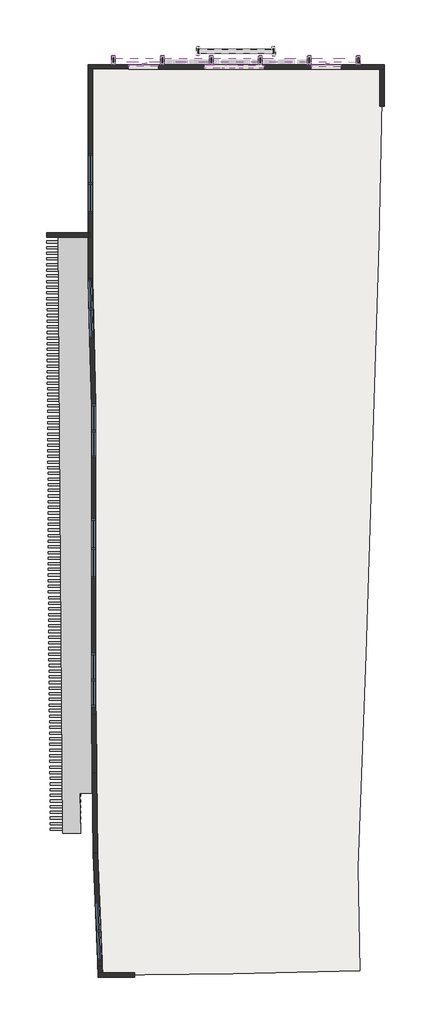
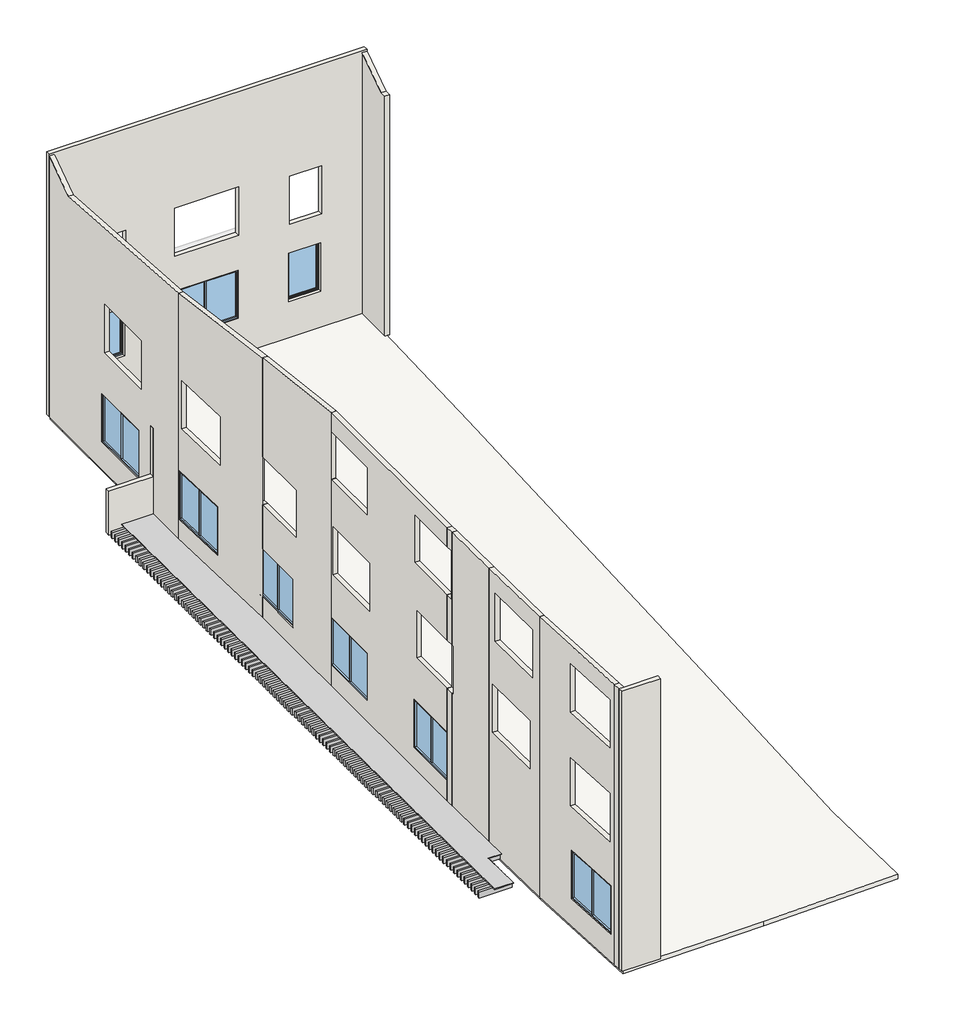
# One storey, part 1 of 2: 14 walls, 9 windows, 6 proxies, 1 slab.
"""IFC4 building model written with IfcOpenShell, lengths in millimetres."""

from ifc_helpers import new_model, si_unit, frame, origin, place, context, project, spatial, polyline, outline, extrude, faceted_brep, transform, mapped, element, save
from components import generic_models_749ffef7, generic_models_a234b745, brise_soleil_brise_soleil_92fbaf2c, brise_soleil_brise_soleil_2_45c54e24, window_d016f1b2, j12_2_00_x_1_60_1745ae86, j8_1_80_x_1_60_cf8edf4a

model = new_model("IFC4")

# Units and contexts
model_context = context("Model", 3, world=origin())
ifc_project = project(units=[si_unit("LENGTHUNIT", "METRE", prefix="MILLI")], contexts=[model_context])

# Site, building, storey
site = spatial("IfcSite", under=ifc_project)
building = spatial("IfcBuilding", under=site)
storey = spatial("IfcBuildingStorey", under=building, Name="1º ANDAR", Elevation=3050.0)

# Proxies
placement = place(None, origin())
generic_models_shape = generic_models_749ffef7(model_context)
element("IfcBuildingElementProxy", 1, Name="PERGOLADO : PERGOLADO", ObjectType="PERGOLADO : PERGOLADO", at=placement, inside=storey, context=model_context, shape_type="MappedRepresentation", body=[
    mapped(generic_models_shape, transform((0.0, 0.0, 0.0), x_axis=(1.0, 0.0, 0.0), y_axis=(0.0, 1.0, 0.0), z_axis=(0.0, 0.0, 1.0))),
])
generic_models_2_shape = generic_models_a234b745(model_context)
element("IfcBuildingElementProxy", 2, Name="COBERTA-POLICARBONATO : COBERTA-POLICARBONATO", ObjectType="COBERTA-POLICARBONATO : COBERTA-POLICARBONATO", at=placement, inside=storey, context=model_context, shape_type="MappedRepresentation", body=[
    mapped(generic_models_2_shape, transform((0.0, 0.0, 0.0), x_axis=(1.0, 0.0, 0.0), y_axis=(0.0, 1.0, 0.0), z_axis=(0.0, 0.0, 1.0))),
])
brise_soleil_brise_soleil_shape = brise_soleil_brise_soleil_92fbaf2c(model_context)
element("IfcBuildingElementProxy", 3, Name="Brise soleil : Brise soleil", ObjectType="Brise soleil : Brise soleil", at=placement, inside=storey, context=model_context, shape_type="MappedRepresentation", body=[
    mapped(brise_soleil_brise_soleil_shape, transform((-2343.0395397, 17030.4680386, 4200.0), x_axis=(0.9999993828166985, -0.0011110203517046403, 0.0), y_axis=(0.0, 0.0, -1.0), z_axis=(0.0011110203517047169, 0.9999993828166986, 0.0))),
])
element("IfcBuildingElementProxy", 4, Name="Brise soleil : Brise soleil", ObjectType="Brise soleil : Brise soleil", at=placement, inside=storey, context=model_context, shape_type="MappedRepresentation", body=[
    mapped(brise_soleil_brise_soleil_shape, transform((-2343.0395397, 17030.4680386, 5150.0), x_axis=(0.9999993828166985, -0.0011110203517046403, 0.0), y_axis=(0.0, 0.0, -1.0), z_axis=(0.0011110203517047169, 0.9999993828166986, 0.0))),
])
brise_soleil_brise_soleil_2_shape = brise_soleil_brise_soleil_2_45c54e24(model_context)
element("IfcBuildingElementProxy", 5, Name="Brise soleil : Brise soleil 2", ObjectType="Brise soleil : Brise soleil 2", at=placement, inside=storey, context=model_context, shape_type="MappedRepresentation", body=[
    mapped(brise_soleil_brise_soleil_2_shape, transform((506.9569424, 17334.8021309, 3710.0), x_axis=(0.9999993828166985, -0.0011110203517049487, 0.0), y_axis=(0.0, 0.0, -1.0), z_axis=(0.0011110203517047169, 0.9999993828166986, 0.0))),
])
element("IfcBuildingElementProxy", 6, Name="Brise soleil : Brise soleil 2", ObjectType="Brise soleil : Brise soleil 2", at=placement, inside=storey, context=model_context, shape_type="MappedRepresentation", body=[
    mapped(brise_soleil_brise_soleil_2_shape, transform((506.9569424, 17334.8021309, 4735.0), x_axis=(0.9999993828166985, -0.0011110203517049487, 0.0), y_axis=(0.0, 0.0, -1.0), z_axis=(0.0011110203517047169, 0.9999993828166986, 0.0))),
])

# Slab
element("IfcSlab", 7, ObjectType="Piso de Cerâmica (0.15m)", at=placement, inside=storey, context=model_context, shape_type="SweptSolid", body=[
    extrude(outline(polyline([(6694.2338956, 16652.9278898), (6583.5512983, 11850.960276), (6151.2727265, -1958.9837619), (5887.4282267, -9129.2308039), (5946.0849466, -12586.0010967), (1687.2597426, -12686.0404964), (-2764.3501419, -12742.7587217), (-2948.0848555, -8546.7795088), (-3000.2826987, -4547.1201001), (-3000.2826987, -47.1201001), (-2976.3575536, 2149.8921234), (-2976.3575536, 4449.8921234), (-3026.6143697, 7492.1537717), (-3102.7236199, 10391.1548724), (-3109.8194631, 12088.8880364), (-3109.8194631, 14188.8880364), (-3109.8194631, 17088.8880364), (-3109.8194631, 17763.8203993), (6694.2338956, 17763.8203993), (6694.2338956, 16652.9278898)])), frame((0.0, 0.0, 2900.0), z_axis=(0.0, 0.0, 1.0), x_axis=(1.0, 0.0, 0.0)), (0.0, 0.0, 1.0), 150.0),
])

# Walls
element("IfcWall", 8, ObjectType="Parede 0.15m", at=placement, inside=storey, context=model_context, shape_type="Brep", body=[
    faceted_brep([(-3184.8194631, 17688.9036796, 3050.0), (-3034.8194631, 17688.7370264, 3050.0), (6769.2338956, 17677.8445169, 3050.0), (6769.2338956, 17677.8445169, 11750.0), (-3184.8194631, 17688.9036796, 11750.0), (-3184.8194631, 17688.9036796, 11699.2729466), (731.9475307, 17684.5520691, 4250.0), (731.9475307, 17684.5520691, 5850.0), (2731.9462964, 17682.3300284, 5850.0), (2731.9462964, 17682.3300284, 4250.0), (746.738843, 17684.5356356, 7000.0), (746.738843, 17684.5356356, 8600.0), (2746.7376087, 17682.3135949, 8600.0), (2746.7376087, 17682.3135949, 7000.0), (5343.3700068, 17679.4286817, 8400.0), (5343.3700068, 17679.4286817, 6800.0), (4343.370624, 17680.539702, 6800.0), (4343.370624, 17680.539702, 8400.0), (-795.6078523, 17686.2492152, 8400.0), (-795.6078523, 17686.2492152, 6800.0), (-1795.6072351, 17687.3602356, 6800.0), (-1795.6072351, 17687.3602356, 8400.0), (5316.8622339, 17679.4581324, 5850.0), (5316.8622339, 17679.4581324, 4250.0), (4316.8628511, 17680.5691527, 4250.0), (4316.8628511, 17680.5691527, 5850.0), (-823.3260144, 17686.2800107, 5850.0), (-823.3260144, 17686.2800107, 4250.0), (-1823.3253972, 17687.391031, 4250.0), (-1823.3253972, 17687.391031, 5850.0), (-3184.8194631, 17838.9037722, 11750.0), (6769.2338956, 17827.8446095, 11750.0), (6769.2338956, 17827.8446095, 3050.0), (-3184.8194631, 17838.9037722, 3050.0), (732.1141838, 17834.5519765, 5850.0), (732.1141838, 17834.5519765, 4250.0), (2732.1129494, 17832.3299358, 4250.0), (2732.1129494, 17832.3299358, 5850.0), (746.9054961, 17834.535543, 8600.0), (746.9054961, 17834.535543, 7000.0), (2746.9042617, 17832.3135023, 7000.0), (2746.9042617, 17832.3135023, 8600.0), (5343.5366599, 17829.4285891, 6800.0), (5343.5366599, 17829.4285891, 8400.0), (4343.5372771, 17830.5396095, 8400.0), (4343.5372771, 17830.5396095, 6800.0), (-795.4411992, 17836.2491227, 6800.0), (-795.4411992, 17836.2491227, 8400.0), (-1795.440582, 17837.360143, 8400.0), (-1795.440582, 17837.360143, 6800.0), (5317.028887, 17829.4580398, 4250.0), (5317.028887, 17829.4580398, 5850.0), (4317.0295042, 17830.5690602, 5850.0), (4317.0295042, 17830.5690602, 4250.0), (-823.1593613, 17836.2799181, 4250.0), (-823.1593613, 17836.2799181, 5850.0), (-1823.1587441, 17837.3909385, 5850.0), (-1823.1587441, 17837.3909385, 4250.0), (-3184.8194631, 17813.9037567, 3050.0), (6769.2338956, 17802.8445941, 3050.0)], [[[0, 1, 2, 3, 4, 5], [6, 7, 8, 9], [10, 11, 12, 13], [14, 15, 16, 17], [18, 19, 20, 21], [22, 23, 24, 25], [26, 27, 28, 29]], [[30, 31, 32, 33], [34, 35, 36, 37], [38, 39, 40, 41], [42, 43, 44, 45], [46, 47, 48, 49], [50, 51, 52, 53], [54, 55, 56, 57]], [[4, 3, 31, 30]], [[2, 1, 0, 58, 59]], [[3, 2, 59, 32, 31]], [[35, 34, 7, 6]], [[36, 35, 6, 9]], [[37, 36, 9, 8]], [[34, 37, 8, 7]], [[0, 5, 4, 30, 33, 58]], [[33, 32, 59, 58]], [[39, 38, 11, 10]], [[40, 39, 10, 13]], [[41, 40, 13, 12]], [[38, 41, 12, 11]], [[42, 15, 14, 43]], [[43, 14, 17, 44]], [[44, 17, 16, 45]], [[15, 42, 45, 16]], [[46, 19, 18, 47]], [[47, 18, 21, 48]], [[48, 21, 20, 49]], [[19, 46, 49, 20]], [[50, 23, 22, 51]], [[51, 22, 25, 52]], [[52, 25, 24, 53]], [[23, 50, 53, 24]], [[54, 27, 26, 55]], [[55, 26, 29, 56]], [[56, 29, 28, 57]], [[27, 54, 57, 28]]]),
])
element("IfcWall", 9, ObjectType="Parede 0.15m", at=placement, inside=storey, context=model_context, shape_type="Brep", body=[
    faceted_brep([(6619.2338956, 17678.0111701, 3050.0), (6619.2338956, 16443.4829321, 3050.0), (6619.2338956, 16443.4829321, 10998.6968206), (6619.2338956, 16643.3588146, 10998.6968206), (6619.2338956, 17678.0111701, 11699.2729466), (6769.2338956, 17677.8445169, 3050.0), (6769.2338956, 17677.8445169, 11699.1601037), (6769.2338956, 16643.3588146, 10998.6968206), (6769.2338956, 16441.6752931, 10998.6968206), (6769.2338956, 16441.6752931, 3050.0), (6744.2338956, 17677.8722924, 3050.0), (6744.2338956, 16441.9765663, 3050.0)], [[[0, 1, 2, 3, 4]], [[5, 6, 7, 8, 9]], [[0, 4, 6, 5, 10]], [[1, 0, 10, 11]], [[10, 5, 9, 11]], [[3, 2, 8, 7]], [[4, 3, 7, 6]], [[2, 1, 11, 9, 8]]]),
])
element("IfcWall", 10, ObjectType="Parede 0.15m", at=placement, inside=storey, context=model_context, shape_type="Brep", body=[
    faceted_brep([(-2702.9361704, -12430.8511291, 3050.0), (-2868.9517216, -8639.527278, 3050.0), (-2868.9517216, -8639.527278, 12330.0), (-2702.9361704, -12430.8511291, 12330.0), (-2798.303236, -10252.9381091, 5550.0), (-2798.303236, -10252.9381091, 3950.0), (-2710.8105153, -12251.0234485, 3950.0), (-2710.8105153, -12251.0234485, 5550.0), (-2712.5052866, -12212.3196827, 8600.0), (-2799.9980074, -10214.2343433, 8600.0), (-2799.9980074, -10214.2343433, 7000.0), (-2712.5052866, -12212.3196827, 7000.0), (-2712.9596127, -12201.9441646, 11700.0), (-2800.4523335, -10203.8588251, 11700.0), (-2800.4523335, -10203.8588251, 10100.0), (-2712.9596127, -12201.9441646, 10100.0), (-2852.7925708, -12437.4130832, 3050.0), (-2852.7925708, -12437.4130832, 12330.0), (-3018.9215606, -8643.4986179, 12330.0), (-3018.9215606, -8643.4986179, 3050.0), (-2948.1596365, -10259.5000631, 5550.0), (-2860.6669157, -12257.5854026, 5550.0), (-2860.6669157, -12257.5854026, 3950.0), (-2948.1596365, -10259.5000631, 3950.0), (-2862.3616871, -12218.8816368, 8600.0), (-2862.3616871, -12218.8816368, 7000.0), (-2949.8544078, -10220.7962973, 7000.0), (-2949.8544078, -10220.7962973, 8600.0), (-2862.8160132, -12208.5061186, 11700.0), (-2862.8160132, -12208.5061186, 10100.0), (-2950.3087339, -10210.4207791, 10100.0), (-2950.3087339, -10210.4207791, 11700.0), (-2827.8165041, -12436.3194241, 3050.0), (-2993.9265875, -8642.836728, 3050.0)], [[[0, 1, 2, 3], [4, 5, 6, 7], [8, 9, 10, 11], [12, 13, 14, 15]], [[16, 17, 18, 19], [20, 21, 22, 23], [24, 25, 26, 27], [28, 29, 30, 31]], [[3, 2, 18, 17]], [[0, 3, 17, 16, 32]], [[1, 0, 32, 33]], [[32, 16, 19, 33]], [[2, 1, 33, 19, 18]], [[5, 4, 20, 23]], [[6, 5, 23, 22]], [[7, 6, 22, 21]], [[4, 7, 21, 20]], [[25, 24, 8, 11]], [[26, 25, 11, 10]], [[27, 26, 10, 9]], [[24, 27, 9, 8]], [[29, 28, 12, 15]], [[30, 29, 15, 14]], [[31, 30, 14, 13]], [[28, 31, 13, 12]]]),
])
element("IfcWall", 11, ObjectType="Parede 0.15m", at=placement, inside=storey, context=model_context, shape_type="Brep", body=[
    faceted_brep([(-2868.9517216, -8639.527278, 3050.0), (-2893.5990228, -5957.3843401, 3050.0), (-2893.5990228, -5957.3843401, 12330.0), (-2868.9517216, -8639.527278, 12330.0), (-2891.8148029, -6151.5448669, 8600.0), (-2891.8148029, -6151.5448669, 7000.0), (-2873.4367662, -8151.4604271, 7000.0), (-2873.4367662, -8151.4604271, 8600.0), (-2890.5765699, -6286.2905678, 11700.0), (-2890.5765699, -6286.2905678, 10100.0), (-2872.1985332, -8286.206128, 10100.0), (-2872.1985332, -8286.206128, 11700.0), (-3018.9215606, -8643.4986179, 3050.0), (-3018.9215606, -8643.4986179, 12330.0), (-3043.5900118, -5959.0541233, 12330.0), (-3043.5900118, -5959.0541233, 3050.0), (-3041.8084699, -6152.9232196, 8600.0), (-3023.4304332, -8152.8387798, 8600.0), (-3023.4304332, -8152.8387798, 7000.0), (-3041.8084699, -6152.9232196, 7000.0), (-3040.5702369, -6287.6689206, 11700.0), (-3022.1922002, -8287.5844807, 11700.0), (-3022.1922002, -8287.5844807, 10100.0), (-3040.5702369, -6287.6689206, 10100.0), (-2993.9265875, -8642.836728, 3050.0), (-3018.5915136, -5958.7758261, 3050.0)], [[[0, 1, 2, 3], [4, 5, 6, 7], [8, 9, 10, 11]], [[12, 13, 14, 15], [16, 17, 18, 19], [20, 21, 22, 23]], [[3, 2, 14, 13]], [[1, 0, 24, 25]], [[0, 3, 13, 12, 24]], [[24, 12, 15, 25]], [[2, 1, 25, 15, 14]], [[5, 4, 16, 19]], [[6, 5, 19, 18]], [[7, 6, 18, 17]], [[4, 7, 17, 16]], [[9, 8, 20, 23]], [[10, 9, 23, 22]], [[11, 10, 22, 21]], [[8, 11, 21, 20]]]),
])
element("IfcWall", 12, ObjectType="Parede 0.15m", at=placement, inside=storey, context=model_context, shape_type="Brep", body=[
    faceted_brep([(-2893.5990228, -5957.38434, 3050.0), (-2919.3165527, -3990.5794955, 3050.0), (-2919.3165527, -3990.5794955, 12330.0), (-2893.5990228, -5957.38434, 12330.0), (-3043.5900118, -5959.0541232, 12330.0), (-3069.3129802, -3991.8333498, 12330.0), (-3069.3129802, -3991.8333498, 8600.0), (-3068.4007563, -4061.5976906, 8600.0), (-3068.4007563, -4061.5976906, 7000.0), (-3069.3129802, -3991.8333498, 7000.0), (-3069.3129802, -3991.8333498, 3050.0), (-3043.5900118, -5959.0541232, 3050.0), (-3018.5915136, -5958.775826, 3050.0), (-3044.3135756, -3991.6243741, 3050.0), (-2920.2679046, -3990.5874481, 7000.0), (-2920.2679046, -3990.5874481, 8600.0), (-2920.2679046, -4061.5976906, 7000.0), (-2920.2679046, -4061.5976906, 8600.0)], [[[0, 1, 2, 3]], [[4, 5, 6, 7, 8, 9, 10, 11]], [[3, 2, 5, 4]], [[1, 0, 12, 13]], [[2, 1, 13, 10, 9, 14, 15, 6, 5]], [[16, 17, 15, 14]], [[16, 14, 9, 8]], [[17, 16, 8, 7]], [[15, 17, 7, 6]], [[0, 3, 4, 11, 12]], [[11, 10, 13, 12]]]),
])
element("IfcWall", 13, ObjectType="Parede 0.15m", at=placement, inside=storey, context=model_context, shape_type="Brep", body=[
    faceted_brep([(-2919.3165527, -3990.5794955, 3050.0), (-2920.2679046, -3729.4368733, 3050.0), (-2920.2679046, -3729.4368733, 7000.0), (-2920.2679046, -3729.4368733, 8600.0), (-2920.2679046, -3729.4368733, 10100.0), (-2920.2679046, -3729.4368733, 11700.0), (-2920.2679046, -3729.4368733, 12330.0), (-2919.3165527, -3990.5794955, 12330.0), (-3069.3129802, -3991.8333498, 12330.0), (-3070.2679046, -3729.7101001, 12330.0), (-3070.2679046, -3729.7101001, 11700.0), (-3069.4443784, -3955.7650202, 11700.0), (-3069.4443784, -3955.7650202, 10100.0), (-3070.2679046, -3729.7101001, 10100.0), (-3070.2679046, -3729.7101001, 8600.0), (-3069.3129802, -3991.8333498, 8600.0), (-3070.2679046, -3729.7101001, 3050.0), (-3069.3129802, -3991.8333498, 3050.0), (-3069.3129802, -3991.8333498, 7000.0), (-3070.2679046, -3729.7101001, 7000.0), (-3044.3135756, -3991.6243741, 3050.0), (-3045.2679046, -3729.6645623, 3050.0), (-2920.2679046, -3990.5874481, 8600.0), (-2920.2679046, -3990.5874481, 7000.0), (-2920.2679046, -3955.7650202, 10100.0), (-2920.2679046, -3955.7650202, 11700.0)], [[[0, 1, 2, 3, 4, 5, 6, 7]], [[8, 9, 10, 11, 12, 13, 14, 15]], [[16, 17, 18, 19]], [[7, 6, 9, 8]], [[1, 0, 20, 21]], [[0, 7, 8, 15, 22, 23, 18, 17, 20]], [[17, 16, 21, 20]], [[1, 21, 16, 19, 2]], [[9, 6, 5, 10]], [[3, 14, 13, 4]], [[2, 23, 22, 3]], [[23, 2, 19, 18]], [[3, 22, 15, 14]], [[24, 25, 5, 4]], [[24, 4, 13, 12]], [[25, 24, 12, 11]], [[5, 25, 11, 10]]]),
])
element("IfcWall", 14, ObjectType="Parede 0.15m", at=placement, inside=storey, context=model_context, shape_type="Brep", body=[
    faceted_brep([(-2920.2679046, -3729.4368733, 3050.0), (-2920.2679046, 2560.4265133, 3050.0), (-2920.2679046, 2560.4265133, 3950.0), (-2920.2679046, 590.7235546, 3950.0), (-2920.2679046, 590.7235546, 5550.0), (-2920.2679046, 2560.4265133, 5550.0), (-2920.2679046, 2560.4265133, 10100.0), (-2920.2679046, 584.2349798, 10100.0), (-2920.2679046, 584.2349798, 11700.0), (-2920.2679046, 2560.4265133, 11700.0), (-2920.2679046, 2560.4265133, 12330.0), (-2920.2679046, -3729.4368733, 12330.0), (-2920.2679046, -3729.4368733, 11700.0), (-2920.2679046, -1955.7650202, 11700.0), (-2920.2679046, -1955.7650202, 10100.0), (-2920.2679046, -3729.4368733, 10100.0), (-2920.2679046, -3729.4368733, 8600.0), (-2920.2679046, -2061.5976906, 8600.0), (-2920.2679046, -2061.5976906, 7000.0), (-2920.2679046, -3729.4368733, 7000.0), (-2920.2679046, -3723.9792295, 5550.0), (-2920.2679046, -1923.9792295, 5550.0), (-2920.2679046, -1923.9792295, 3950.0), (-2920.2679046, -3723.9792295, 3950.0), (-2920.2679046, 480.4265133, 8600.0), (-2920.2679046, 2480.4265133, 8600.0), (-2920.2679046, 2480.4265133, 7000.0), (-2920.2679046, 480.4265133, 7000.0), (-3070.2679046, -3729.7101001, 12330.0), (-3070.2679046, 2560.4265133, 12330.0), (-3070.2679046, 2560.4265133, 11700.0), (-3070.2679046, 584.2349798, 11700.0), (-3070.2679046, 584.2349798, 10100.0), (-3070.2679046, 2560.4265133, 10100.0), (-3070.2679046, 2560.4265133, 5550.0), (-3070.2679046, 590.7235546, 5550.0), (-3070.2679046, 590.7235546, 3950.0), (-3070.2679046, 2560.4265133, 3950.0), (-3070.2679046, 2560.4265133, 3050.0), (-3070.2679046, -3729.7101001, 3050.0), (-3070.2679046, -3729.7101001, 7000.0), (-3070.2679046, -2061.5976906, 7000.0), (-3070.2679046, -2061.5976906, 8600.0), (-3070.2679046, -3729.7101001, 8600.0), (-3070.2679046, -3729.7101001, 10100.0), (-3070.2679046, -1955.7650202, 10100.0), (-3070.2679046, -1955.7650202, 11700.0), (-3070.2679046, -3729.7101001, 11700.0), (-3070.2679046, -3723.9792295, 5550.0), (-3070.2679046, -3723.9792295, 3950.0), (-3070.2679046, -1923.9792295, 3950.0), (-3070.2679046, -1923.9792295, 5550.0), (-3070.2679046, 480.4265133, 8600.0), (-3070.2679046, 480.4265133, 7000.0), (-3070.2679046, 2480.4265133, 7000.0), (-3070.2679046, 2480.4265133, 8600.0), (-3045.2679046, 2560.4265133, 3050.0), (-3045.2679046, -3729.6645623, 3050.0)], [[[0, 1, 2, 3, 4, 5, 6, 7, 8, 9, 10, 11, 12, 13, 14, 15, 16, 17, 18, 19], [20, 21, 22, 23], [24, 25, 26, 27]], [[28, 29, 30, 31, 32, 33, 34, 35, 36, 37, 38, 39, 40, 41, 42, 43, 44, 45, 46, 47], [48, 49, 50, 51], [52, 53, 54, 55]], [[29, 10, 9, 30]], [[1, 56, 38, 37, 2]], [[33, 6, 5, 34]], [[11, 10, 29, 28]], [[1, 0, 57, 56]], [[11, 28, 47, 12]], [[57, 0, 19, 40, 39]], [[43, 16, 15, 44]], [[39, 38, 56, 57]], [[49, 48, 20, 23]], [[50, 49, 23, 22]], [[51, 50, 22, 21]], [[48, 51, 21, 20]], [[17, 42, 41, 18]], [[18, 41, 40, 19]], [[42, 17, 16, 43]], [[31, 8, 7, 32]], [[32, 7, 6, 33]], [[8, 31, 30, 9]], [[13, 46, 45, 14]], [[14, 45, 44, 15]], [[46, 13, 12, 47]], [[53, 52, 24, 27]], [[54, 53, 27, 26]], [[55, 54, 26, 25]], [[52, 55, 25, 24]], [[35, 4, 3, 36]], [[36, 3, 2, 37]], [[4, 35, 34, 5]]]),
])
element("IfcWall", 15, ObjectType="Parede 0.15m", at=placement, inside=storey, context=model_context, shape_type="Brep", body=[
    faceted_brep([(-2920.2679046, 2560.4265133, 3050.0), (-2920.2679046, 6299.1513572, 3050.0), (-2920.2679046, 6299.1513572, 3950.0), (-2920.2679046, 4628.0737296, 3950.0), (-2920.2679046, 4628.0737296, 5550.0), (-2920.2679046, 6299.1513572, 5550.0), (-2920.2679046, 6299.1513572, 7000.0), (-2920.2679046, 4464.7037251, 7000.0), (-2920.2679046, 4464.7037251, 8600.0), (-2920.2679046, 6299.1513572, 8600.0), (-2920.2679046, 6299.1513572, 11870.9423117), (-2920.2679046, 2560.4265133, 12330.0), (-2920.2679046, 2560.4265133, 11700.0), (-2920.2679046, 2584.2349798, 11700.0), (-2920.2679046, 2584.2349798, 10100.0), (-2920.2679046, 2560.4265133, 10100.0), (-2920.2679046, 2560.4265133, 5550.0), (-2920.2679046, 2590.7235546, 5550.0), (-2920.2679046, 2590.7235546, 3950.0), (-2920.2679046, 2560.4265133, 3950.0), (-3070.2679046, 6297.1826755, 3050.0), (-3070.2679046, 2560.4265133, 3050.0), (-3070.2679046, 2560.4265133, 3950.0), (-3070.2679046, 2590.7235546, 3950.0), (-3070.2679046, 2590.7235546, 5550.0), (-3070.2679046, 2560.4265133, 5550.0), (-3070.2679046, 2560.4265133, 10100.0), (-3070.2679046, 2584.2349798, 10100.0), (-3070.2679046, 2584.2349798, 11700.0), (-3070.2679046, 2560.4265133, 11700.0), (-3070.2679046, 2560.4265133, 12330.0), (-3070.2679046, 6297.1826755, 11871.1840354), (-3070.2679046, 6297.1826755, 8600.0), (-3070.2679046, 4464.7037251, 8600.0), (-3070.2679046, 4464.7037251, 7000.0), (-3070.2679046, 6297.1826755, 7000.0), (-3070.2679046, 6297.1826755, 5550.0), (-3070.2679046, 4628.0737296, 5550.0), (-3070.2679046, 4628.0737296, 3950.0), (-3070.2679046, 6297.1826755, 3950.0), (-3045.2679046, 6297.5107891, 3050.0), (-3045.2679046, 2560.4265133, 3050.0)], [[[0, 1, 2, 3, 4, 5, 6, 7, 8, 9, 10, 11, 12, 13, 14, 15, 16, 17, 18, 19]], [[20, 21, 22, 23, 24, 25, 26, 27, 28, 29, 30, 31, 32, 33, 34, 35, 36, 37, 38, 39]], [[5, 36, 35, 6]], [[39, 2, 1, 40, 20]], [[10, 9, 32, 31]], [[38, 3, 2, 39]], [[3, 38, 37, 4]], [[4, 37, 36, 5]], [[33, 8, 7, 34]], [[34, 7, 6, 35]], [[8, 33, 32, 9]], [[14, 27, 26, 15]], [[27, 14, 13, 28]], [[28, 13, 12, 29]], [[18, 23, 22, 19]], [[23, 18, 17, 24]], [[24, 17, 16, 25]], [[12, 11, 30, 29]], [[41, 0, 19, 22, 21]], [[15, 26, 25, 16]], [[1, 0, 41, 40]], [[21, 20, 40, 41]], [[11, 10, 31, 30]]]),
])
element("IfcWall", 16, ObjectType="Parede 0.15m", at=placement, inside=storey, context=model_context, shape_type="Brep", body=[
    faceted_brep([(-2920.2679046, 6299.1513572, 3050.0), (-3034.8194631, 10662.4198596, 3050.0), (-3034.8194631, 10662.4198596, 11412.4106151), (-2920.2679046, 6299.1513572, 11871.166632), (-2920.2679046, 6299.1513572, 8600.0), (-2924.6142523, 6464.7037251, 8600.0), (-2924.6142523, 6464.7037251, 7000.0), (-2920.2679046, 6299.1513572, 7000.0), (-2920.2679046, 6299.1513572, 5550.0), (-2923.6525826, 6428.0737296, 5550.0), (-2923.6525826, 6428.0737296, 3950.0), (-2920.2679046, 6299.1513572, 3950.0), (-2981.3732981, 8626.6556025, 5550.0), (-3033.8624362, 10625.9667065, 5550.0), (-3033.8624362, 10625.9667065, 3950.0), (-2981.3732981, 8626.6556025, 3950.0), (-2978.5519087, 8519.1888885, 8600.0), (-3031.0410468, 10518.4999924, 8600.0), (-3031.0410468, 10518.4999924, 7000.0), (-2978.5519087, 8519.1888885, 7000.0), (-3184.8194631, 10660.4511779, 3050.0), (-3070.2679046, 6297.1826755, 3050.0), (-3070.2679046, 6297.1826755, 3950.0), (-3070.2679046, 6297.1826755, 5550.0), (-3070.2679046, 6297.1826755, 7000.0), (-3070.2679046, 6297.1826755, 8600.0), (-3070.2679046, 6297.1826755, 11870.9597152), (-3184.8194631, 10660.4511779, 11412.2036984), (-3131.3216309, 8622.7189172, 5550.0), (-3131.3216309, 8622.7189172, 3950.0), (-3183.810769, 10622.0300211, 3950.0), (-3183.810769, 10622.0300211, 5550.0), (-3128.5002415, 8515.2522031, 8600.0), (-3128.5002415, 8515.2522031, 7000.0), (-3180.9893796, 10514.5633071, 7000.0), (-3180.9893796, 10514.5633071, 8600.0), (-3045.2679046, 6297.5107891, 3050.0), (-3159.8194631, 10660.7792915, 3050.0), (-3070.2679046, 6428.0737296, 3950.0), (-3070.2679046, 6428.0737296, 5550.0), (-3070.2679046, 6464.7037251, 7000.0), (-3070.2679046, 6464.7037251, 8600.0)], [[[0, 1, 2, 3, 4, 5, 6, 7, 8, 9, 10, 11], [12, 13, 14, 15], [16, 17, 18, 19]], [[20, 21, 22, 23, 24, 25, 26, 27], [28, 29, 30, 31], [32, 33, 34, 35]], [[4, 3, 26, 25]], [[7, 24, 23, 8]], [[36, 0, 11, 22, 21]], [[2, 1, 37, 20, 27]], [[29, 28, 12, 15]], [[30, 29, 15, 14]], [[31, 30, 14, 13]], [[28, 31, 13, 12]], [[38, 39, 23, 22]], [[39, 38, 10, 9]], [[38, 22, 11, 10]], [[23, 39, 9, 8]], [[33, 32, 16, 19]], [[34, 33, 19, 18]], [[35, 34, 18, 17]], [[32, 35, 17, 16]], [[40, 41, 25, 24]], [[40, 24, 7, 6]], [[41, 40, 6, 5]], [[25, 41, 5, 4]], [[1, 0, 36, 37]], [[21, 20, 37, 36]], [[3, 2, 27, 26]]]),
])
element("IfcWall", 17, ObjectType="Parede 0.15m", at=placement, inside=storey, context=model_context, shape_type="Brep", body=[
    faceted_brep([(-3034.8194631, 10662.4198596, 3050.0), (-3034.8194631, 17688.7370264, 3050.0), (-3034.8194631, 17688.7370264, 11699.1601037), (-3034.8194631, 16646.8198203, 10993.6648559), (-3034.8194631, 10662.4198596, 11412.1348665), (-3034.8194631, 14691.139593, 8600.0), (-3034.8194631, 14691.139593, 7000.0), (-3034.8194631, 12691.139593, 7000.0), (-3034.8194631, 12691.139593, 8600.0), (-3034.8194631, 14838.9184748, 5550.0), (-3034.8194631, 14838.9184748, 3950.0), (-3034.8194631, 12838.9184748, 3950.0), (-3034.8194631, 12838.9184748, 5550.0), (-3184.8194631, 17688.9036796, 3050.0), (-3184.8194631, 10660.4511779, 3050.0), (-3184.8194631, 10660.4511779, 11412.2725302), (-3184.8194631, 16646.8198203, 10993.6648559), (-3184.8194631, 17688.9036796, 11699.2729466), (-3184.8194631, 14691.139593, 7000.0), (-3184.8194631, 14691.139593, 8600.0), (-3184.8194631, 12691.139593, 8600.0), (-3184.8194631, 12691.139593, 7000.0), (-3184.8194631, 14838.9184748, 3950.0), (-3184.8194631, 14838.9184748, 5550.0), (-3184.8194631, 12838.9184748, 5550.0), (-3184.8194631, 12838.9184748, 3950.0), (-3159.8194631, 10660.7792915, 3050.0), (-3159.8194631, 17688.8759041, 3050.0)], [[[0, 1, 2, 3, 4], [5, 6, 7, 8], [9, 10, 11, 12]], [[13, 14, 15, 16, 17], [18, 19, 20, 21], [22, 23, 24, 25]], [[0, 4, 15, 14, 26]], [[2, 1, 27, 13, 17]], [[1, 0, 26, 27]], [[14, 13, 27, 26]], [[3, 2, 17, 16]], [[4, 3, 16, 15]], [[5, 19, 18, 6]], [[6, 18, 21, 7]], [[7, 21, 20, 8]], [[19, 5, 8, 20]], [[9, 23, 22, 10]], [[10, 22, 25, 11]], [[11, 25, 24, 12]], [[23, 9, 12, 24]]]),
])
element("IfcWall", 18, ObjectType="Parede 0.15m", at=placement, inside=storey, context=model_context, shape_type="Brep", body=[
    faceted_brep([(-1621.6985497, -12667.7587217, 3050.0), (-2692.5623943, -12667.7587217, 3050.0), (-2842.7061315, -12667.7587217, 3050.0), (-2842.7061315, -12667.7587217, 12330.0), (-2692.5623943, -12667.7587217, 12330.0), (-1621.6985497, -12667.7587217, 12330.0), (-1621.6985497, -12817.7587217, 3050.0), (-1621.6985497, -12817.7587217, 12330.0), (-2836.1378894, -12817.7587217, 12330.0), (-2836.1378894, -12817.7587217, 3050.0), (-1621.6985497, -12792.7587217, 3050.0), (-2837.2325964, -12792.7587217, 3050.0)], [[[0, 1, 2, 3, 4, 5]], [[6, 7, 8, 9]], [[5, 4, 3, 8, 7]], [[0, 5, 7, 6, 10]], [[2, 1, 0, 10, 11]], [[10, 6, 9, 11]], [[3, 2, 11, 9, 8]]]),
])
element("IfcWall", 19, ObjectType="Parede 0.15m", at=placement, inside=storey, context=model_context, shape_type="Brep", body=[
    faceted_brep([(-2852.7925708, -12437.4130832, 3050.0), (-2842.7061315, -12667.7587217, 3050.0), (-2842.7061315, -12667.7587217, 12330.0), (-2852.7925708, -12437.4130832, 12330.0), (-2702.9361704, -12430.8511291, 3050.0), (-2702.9361704, -12430.8511291, 12330.0), (-2692.5623943, -12667.7587217, 12330.0), (-2692.5623943, -12667.7587217, 3050.0), (-2727.9122371, -12431.9447881, 3050.0), (-2717.5863505, -12667.7587217, 3050.0)], [[[0, 1, 2, 3]], [[4, 5, 6, 7]], [[3, 2, 6, 5]], [[0, 3, 5, 4, 8]], [[1, 0, 8, 9]], [[8, 4, 7, 9]], [[2, 1, 9, 7, 6]]]),
])
element("IfcWall", 20, ObjectType="Parede 0.15m", at=placement, inside=storey, context=model_context, shape_type="Brep", body=[
    faceted_brep([(-4579.6936307, 12035.2417838, 3050.0), (-3184.8194631, 12035.2417838, 3050.0), (-3184.8194631, 12035.2417838, 4500.0), (-4579.6936307, 12035.2417838, 4500.0), (-4580.6188123, 12185.2417838, 3050.0), (-4580.6188123, 12185.2417838, 4500.0), (-3184.8194631, 12185.2417838, 4500.0), (-3184.8194631, 12185.2417838, 3050.0), (-4580.4646154, 12160.2417838, 3050.0), (-3184.8194631, 12160.2417838, 3050.0)], [[[0, 1, 2, 3]], [[4, 5, 6, 7]], [[3, 2, 6, 5]], [[1, 0, 8, 9]], [[0, 3, 5, 4, 8]], [[8, 4, 7, 9]], [[2, 1, 9, 7, 6]]]),
])
element("IfcWall", 21, ObjectType="Parede 0.15m", at=placement, inside=storey, context=model_context, shape_type="Brep", body=[
    faceted_brep([(-3184.8194631, 12035.2417838, 3050.0), (-3109.8194631, 12035.2417838, 3050.0), (-3109.8194631, 12035.2417838, 6100.0), (-3184.8194631, 12035.2417838, 6100.0), (-3184.8194631, 12035.2417838, 4500.0), (-3184.8194631, 12185.2417838, 3050.0), (-3184.8194631, 12185.2417838, 6100.0), (-3109.8194631, 12185.2417838, 6100.0), (-3109.8194631, 12185.2417838, 3050.0), (-3109.8194631, 12160.2417838, 3050.0), (-3184.8194631, 12160.2417838, 3050.0)], [[[0, 1, 2, 3, 4]], [[5, 6, 7, 8]], [[2, 1, 9, 8, 7]], [[3, 2, 7, 6]], [[0, 4, 3, 6, 5, 10]], [[1, 0, 10, 9]], [[10, 5, 8, 9]]]),
])

# Windows
window_shape = window_d016f1b2(model_context)
element("IfcWindow", 22, ObjectType="Janela maxim-ar - 1 Painel : J11 - Janela maxim-ar - 1 Painel", at=placement, inside=storey, context=model_context, shape_type="MappedRepresentation", body=[
    mapped(window_shape, transform((-1323.2423792, 17761.8354746, 3600.0), x_axis=(-0.9999993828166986, 0.0011110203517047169, 0.0), y_axis=(-0.0011110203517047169, -0.9999993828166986, 0.0), z_axis=(0.0, 0.0, 1.0))),
])
element("IfcWindow", 23, ObjectType="Janela maxim-ar - 1 Painel : J11 - Janela maxim-ar - 1 Painel", at=placement, inside=storey, context=model_context, shape_type="MappedRepresentation", body=[
    mapped(window_shape, transform((4816.9458691, 17755.0135963, 3600.0), x_axis=(-0.9999993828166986, 0.0011110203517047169, 0.0), y_axis=(-0.0011110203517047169, -0.9999993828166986, 0.0), z_axis=(0.0, 0.0, 1.0))),
])
j12_2_00_x_1_60_shape = j12_2_00_x_1_60_1745ae86(model_context)
element("IfcWindow", 24, ObjectType="Abrir 2 Folhas : J12 - 2,00 x 1,60", at=placement, inside=storey, context=model_context, shape_type="MappedRepresentation", body=[
    mapped(j12_2_00_x_1_60_shape, transform((1360.4599754, 17785.4113658, 3350.0), x_axis=(-0.9999993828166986, 0.0011110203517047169, 0.0), y_axis=(-0.0011110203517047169, -0.9999993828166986, 0.0), z_axis=(0.0, 0.0, 1.0))),
])
element("IfcWindow", 25, ObjectType="Abrir 2 Folhas : J12 - 2,00 x 1,60", at=placement, inside=storey, context=model_context, shape_type="MappedRepresentation", body=[
    mapped(j12_2_00_x_1_60_shape, transform((-3099.3879286, 9252.1738179, 3050.0), x_axis=(0.026244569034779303, -0.9996555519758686, 0.0), y_axis=(0.9996555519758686, 0.026244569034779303, 0.0), z_axis=(0.0, 0.0, 1.0))),
])
element("IfcWindow", 26, ObjectType="Abrir 2 Folhas : J12 - 2,00 x 1,60", at=placement, inside=storey, context=model_context, shape_type="MappedRepresentation", body=[
    mapped(j12_2_00_x_1_60_shape, transform((-3021.8254293, 1219.1235546, 3050.0), x_axis=(0.0, -1.0, 0.0), y_axis=(1.0, 0.0, 0.0), z_axis=(0.0, 0.0, 1.0))),
])
element("IfcWindow", 27, ObjectType="Abrir 2 Folhas : J12 - 2,00 x 1,60", at=placement, inside=storey, context=model_context, shape_type="MappedRepresentation", body=[
    mapped(j12_2_00_x_1_60_shape, transform((-2819.2091231, -10882.8557047, 3050.0), x_axis=(-0.04374636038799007, 0.9990426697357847, 0.0), y_axis=(-0.9990426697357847, -0.04374636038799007, 0.0), z_axis=(0.0, 0.0, 1.0))),
])
element("IfcWindow", 28, ObjectType="Abrir 2 Folhas : J12 - 2,00 x 1,60", at=placement, inside=storey, context=model_context, shape_type="MappedRepresentation", body=[
    mapped(j12_2_00_x_1_60_shape, transform((-3083.2619385, 14210.5184748, 3050.0), x_axis=(0.0, 1.0, 0.0), y_axis=(-1.0, 0.0, 0.0), z_axis=(0.0, 0.0, 1.0))),
])
j8_1_80_x_1_60_shape = j8_1_80_x_1_60_cf8edf4a(model_context)
element("IfcWindow", 29, ObjectType="Abrir 2 Folhas : J8 - 1,80 x 1,60", at=placement, inside=storey, context=model_context, shape_type="MappedRepresentation", body=[
    mapped(j8_1_80_x_1_60_shape, transform((-2968.71038, 5999.6737296, 3050.0), x_axis=(0.0, 1.0, 0.0), y_axis=(-1.0, 0.0, 0.0), z_axis=(0.0, 0.0, 1.0))),
])
element("IfcWindow", 30, ObjectType="Abrir 2 Folhas : J8 - 1,80 x 1,60", at=placement, inside=storey, context=model_context, shape_type="MappedRepresentation", body=[
    mapped(j8_1_80_x_1_60_shape, transform((-3021.8254293, -3295.5792295, 3050.0), x_axis=(0.0, -1.0, 0.0), y_axis=(1.0, 0.0, 0.0), z_axis=(0.0, 0.0, 1.0))),
])

save(model, "model.ifc")
